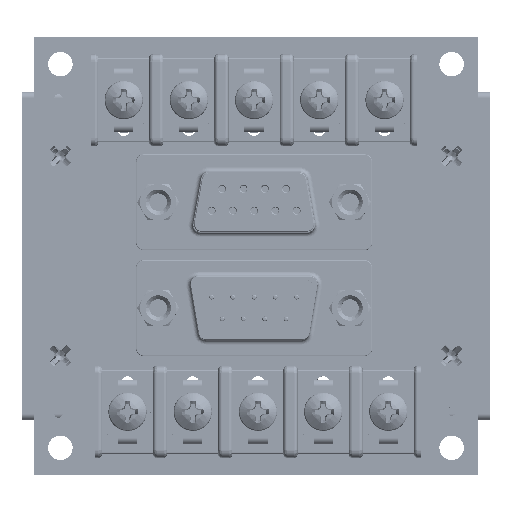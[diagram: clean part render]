
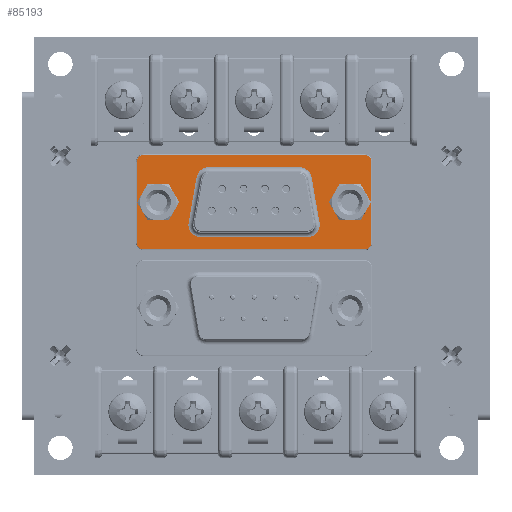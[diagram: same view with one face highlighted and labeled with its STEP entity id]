
A CAD part, top view. The second image highlights one B-rep face of the part: STEP entity #85193.
In plain terms, the highlighted planar face has unit normal (0, 0, 1).
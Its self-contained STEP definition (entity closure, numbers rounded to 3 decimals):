
#84785 = VERTEX_POINT('',#84786);
#84786 = CARTESIAN_POINT('',(-14.075,1.254,4.7));
#84793 = EDGE_CURVE('',#84785,#84794,#84796,.T.);
#84794 = VERTEX_POINT('',#84795);
#84795 = CARTESIAN_POINT('',(-12.499,3.13,4.7));
#84796 = CIRCLE('',#84797,1.6);
#84797 = AXIS2_PLACEMENT_3D('',#84798,#84799,#84800);
#84798 = CARTESIAN_POINT('',(-12.499,1.53,4.7));
#84799 = DIRECTION('',(-0.,0.,-1.));
#84800 = DIRECTION('',(-0.985,-0.173,0.));
#84818 = EDGE_CURVE('',#84794,#84819,#84821,.T.);
#84819 = VERTEX_POINT('',#84820);
#84820 = CARTESIAN_POINT('',(1.419,3.13,4.7));
#84821 = LINE('',#84822,#84823);
#84822 = CARTESIAN_POINT('',(-12.499,3.13,4.7));
#84823 = VECTOR('',#84824,1.);
#84824 = DIRECTION('',(1.,0.,0.));
#84843 = EDGE_CURVE('',#84844,#84785,#84846,.T.);
#84844 = VERTEX_POINT('',#84845);
#84845 = CARTESIAN_POINT('',(-13.041,-4.646,4.7));
#84846 = LINE('',#84847,#84848);
#84847 = CARTESIAN_POINT('',(-13.041,-4.646,4.7));
#84848 = VECTOR('',#84849,1.);
#84849 = DIRECTION('',(-0.173,0.985,0.));
#84869 = EDGE_CURVE('',#84819,#84870,#84872,.T.);
#84870 = VERTEX_POINT('',#84871);
#84871 = CARTESIAN_POINT('',(2.995,1.254,4.7));
#84872 = CIRCLE('',#84873,1.6);
#84873 = AXIS2_PLACEMENT_3D('',#84874,#84875,#84876);
#84874 = CARTESIAN_POINT('',(1.419,1.53,4.7));
#84875 = DIRECTION('',(0.,0.,-1.));
#84876 = DIRECTION('',(0.,1.,0.));
#84895 = VERTEX_POINT('',#84896);
#84896 = CARTESIAN_POINT('',(-11.465,-5.97,4.7));
#84903 = EDGE_CURVE('',#84895,#84844,#84904,.T.);
#84904 = CIRCLE('',#84905,1.6);
#84905 = AXIS2_PLACEMENT_3D('',#84906,#84907,#84908);
#84906 = CARTESIAN_POINT('',(-11.465,-4.37,4.7));
#84907 = DIRECTION('',(-0.,-0.,-1.));
#84908 = DIRECTION('',(0.,-1.,0.));
#84920 = EDGE_CURVE('',#84870,#84921,#84923,.T.);
#84921 = VERTEX_POINT('',#84922);
#84922 = CARTESIAN_POINT('',(1.961,-4.646,4.7));
#84923 = LINE('',#84924,#84925);
#84924 = CARTESIAN_POINT('',(2.995,1.254,4.7));
#84925 = VECTOR('',#84926,1.);
#84926 = DIRECTION('',(-0.173,-0.985,0.));
#84945 = EDGE_CURVE('',#84946,#84895,#84948,.T.);
#84946 = VERTEX_POINT('',#84947);
#84947 = CARTESIAN_POINT('',(0.385,-5.97,4.7));
#84948 = LINE('',#84949,#84950);
#84949 = CARTESIAN_POINT('',(0.385,-5.97,4.7));
#84950 = VECTOR('',#84951,1.);
#84951 = DIRECTION('',(-1.,0.,0.));
#84971 = EDGE_CURVE('',#84921,#84946,#84972,.T.);
#84972 = CIRCLE('',#84973,1.6);
#84973 = AXIS2_PLACEMENT_3D('',#84974,#84975,#84976);
#84974 = CARTESIAN_POINT('',(0.385,-4.37,4.7));
#84975 = DIRECTION('',(0.,-0.,-1.));
#84976 = DIRECTION('',(0.985,-0.173,0.));
#85193 = ADVANCED_FACE('',(#85194,#85204,#85274,#85285),#85296,.T.);
#85194 = FACE_BOUND('',#85195,.T.);
#85195 = EDGE_LOOP('',(#85196,#85197,#85198,#85199,#85200,#85201,#85202,
    #85203));
#85196 = ORIENTED_EDGE('',*,*,#84869,.T.);
#85197 = ORIENTED_EDGE('',*,*,#84920,.T.);
#85198 = ORIENTED_EDGE('',*,*,#84971,.T.);
#85199 = ORIENTED_EDGE('',*,*,#84945,.T.);
#85200 = ORIENTED_EDGE('',*,*,#84903,.T.);
#85201 = ORIENTED_EDGE('',*,*,#84843,.T.);
#85202 = ORIENTED_EDGE('',*,*,#84793,.T.);
#85203 = ORIENTED_EDGE('',*,*,#84818,.T.);
#85204 = FACE_BOUND('',#85205,.T.);
#85205 = EDGE_LOOP('',(#85206,#85216,#85225,#85233,#85242,#85250,#85259,
    #85267));
#85206 = ORIENTED_EDGE('',*,*,#85207,.T.);
#85207 = EDGE_CURVE('',#85208,#85210,#85212,.T.);
#85208 = VERTEX_POINT('',#85209);
#85209 = CARTESIAN_POINT('',(8.86,4.73,4.7));
#85210 = VERTEX_POINT('',#85211);
#85211 = CARTESIAN_POINT('',(-19.94,4.73,4.7));
#85212 = LINE('',#85213,#85214);
#85213 = CARTESIAN_POINT('',(8.86,4.73,4.7));
#85214 = VECTOR('',#85215,1.);
#85215 = DIRECTION('',(-1.,0.,0.));
#85216 = ORIENTED_EDGE('',*,*,#85217,.T.);
#85217 = EDGE_CURVE('',#85210,#85218,#85220,.T.);
#85218 = VERTEX_POINT('',#85219);
#85219 = CARTESIAN_POINT('',(-20.84,3.83,4.7));
#85220 = CIRCLE('',#85221,0.9);
#85221 = AXIS2_PLACEMENT_3D('',#85222,#85223,#85224);
#85222 = CARTESIAN_POINT('',(-19.94,3.83,4.7));
#85223 = DIRECTION('',(0.,-0.,1.));
#85224 = DIRECTION('',(0.,1.,0.));
#85225 = ORIENTED_EDGE('',*,*,#85226,.T.);
#85226 = EDGE_CURVE('',#85218,#85227,#85229,.T.);
#85227 = VERTEX_POINT('',#85228);
#85228 = CARTESIAN_POINT('',(-20.84,-6.67,4.7));
#85229 = LINE('',#85230,#85231);
#85230 = CARTESIAN_POINT('',(-20.84,3.83,4.7));
#85231 = VECTOR('',#85232,1.);
#85232 = DIRECTION('',(0.,-1.,0.));
#85233 = ORIENTED_EDGE('',*,*,#85234,.T.);
#85234 = EDGE_CURVE('',#85227,#85235,#85237,.T.);
#85235 = VERTEX_POINT('',#85236);
#85236 = CARTESIAN_POINT('',(-19.94,-7.57,4.7));
#85237 = CIRCLE('',#85238,0.9);
#85238 = AXIS2_PLACEMENT_3D('',#85239,#85240,#85241);
#85239 = CARTESIAN_POINT('',(-19.94,-6.67,4.7));
#85240 = DIRECTION('',(0.,0.,1.));
#85241 = DIRECTION('',(-1.,0.,0.));
#85242 = ORIENTED_EDGE('',*,*,#85243,.T.);
#85243 = EDGE_CURVE('',#85235,#85244,#85246,.T.);
#85244 = VERTEX_POINT('',#85245);
#85245 = CARTESIAN_POINT('',(8.86,-7.57,4.7));
#85246 = LINE('',#85247,#85248);
#85247 = CARTESIAN_POINT('',(-19.94,-7.57,4.7));
#85248 = VECTOR('',#85249,1.);
#85249 = DIRECTION('',(1.,0.,0.));
#85250 = ORIENTED_EDGE('',*,*,#85251,.T.);
#85251 = EDGE_CURVE('',#85244,#85252,#85254,.T.);
#85252 = VERTEX_POINT('',#85253);
#85253 = CARTESIAN_POINT('',(9.76,-6.67,4.7));
#85254 = CIRCLE('',#85255,0.9);
#85255 = AXIS2_PLACEMENT_3D('',#85256,#85257,#85258);
#85256 = CARTESIAN_POINT('',(8.86,-6.67,4.7));
#85257 = DIRECTION('',(-0.,0.,1.));
#85258 = DIRECTION('',(0.,-1.,0.));
#85259 = ORIENTED_EDGE('',*,*,#85260,.T.);
#85260 = EDGE_CURVE('',#85252,#85261,#85263,.T.);
#85261 = VERTEX_POINT('',#85262);
#85262 = CARTESIAN_POINT('',(9.76,3.83,4.7));
#85263 = LINE('',#85264,#85265);
#85264 = CARTESIAN_POINT('',(9.76,-6.67,4.7));
#85265 = VECTOR('',#85266,1.);
#85266 = DIRECTION('',(0.,1.,0.));
#85267 = ORIENTED_EDGE('',*,*,#85268,.T.);
#85268 = EDGE_CURVE('',#85261,#85208,#85269,.T.);
#85269 = CIRCLE('',#85270,0.9);
#85270 = AXIS2_PLACEMENT_3D('',#85271,#85272,#85273);
#85271 = CARTESIAN_POINT('',(8.86,3.83,4.7));
#85272 = DIRECTION('',(0.,0.,1.));
#85273 = DIRECTION('',(1.,0.,0.));
#85274 = FACE_BOUND('',#85275,.T.);
#85275 = EDGE_LOOP('',(#85276));
#85276 = ORIENTED_EDGE('',*,*,#85277,.F.);
#85277 = EDGE_CURVE('',#85278,#85278,#85280,.T.);
#85278 = VERTEX_POINT('',#85279);
#85279 = CARTESIAN_POINT('',(-16.34,-1.42,4.7));
#85280 = CIRCLE('',#85281,1.7);
#85281 = AXIS2_PLACEMENT_3D('',#85282,#85283,#85284);
#85282 = CARTESIAN_POINT('',(-18.04,-1.42,4.7));
#85283 = DIRECTION('',(0.,0.,1.));
#85284 = DIRECTION('',(1.,0.,0.));
#85285 = FACE_BOUND('',#85286,.T.);
#85286 = EDGE_LOOP('',(#85287));
#85287 = ORIENTED_EDGE('',*,*,#85288,.F.);
#85288 = EDGE_CURVE('',#85289,#85289,#85291,.T.);
#85289 = VERTEX_POINT('',#85290);
#85290 = CARTESIAN_POINT('',(8.66,-1.42,4.7));
#85291 = CIRCLE('',#85292,1.7);
#85292 = AXIS2_PLACEMENT_3D('',#85293,#85294,#85295);
#85293 = CARTESIAN_POINT('',(6.96,-1.42,4.7));
#85294 = DIRECTION('',(0.,0.,1.));
#85295 = DIRECTION('',(1.,0.,0.));
#85296 = PLANE('',#85297);
#85297 = AXIS2_PLACEMENT_3D('',#85298,#85299,#85300);
#85298 = CARTESIAN_POINT('',(-5.54,-1.42,4.7));
#85299 = DIRECTION('',(0.,0.,1.));
#85300 = DIRECTION('',(1.,0.,0.));
